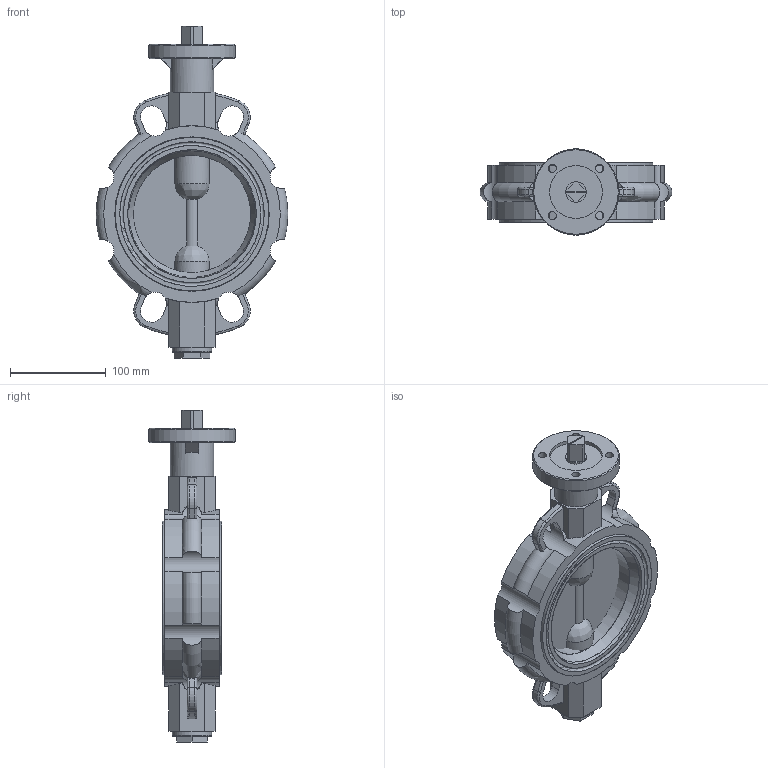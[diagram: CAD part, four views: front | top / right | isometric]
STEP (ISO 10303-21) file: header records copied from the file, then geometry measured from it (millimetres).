
FILE_DESCRIPTION( ( 'STEP AP214' ), '1' );
FILE_NAME( ' ', ' ', ( ' ' ), ( ' ' ), 'PSStep 13.0', 'VISI 18.0', ' ' );
FILE_SCHEMA( ( 'AUTOMOTIVE_DESIGN { 1 0 10303 214 1 1 1 1 }' ) );
Length unit declared in the file: millimetre
Products named in the file (29): 1; 2; 3; 4; 5; 6; 7; 8; 9; 10; 11; 12; 13; 14; 15; 16; 17; 18; 19; 20; 21; 22; 23; 24; 25; 26; 27; 28; 29
Bounding box: 200 x 90 x 346 mm (x, y, z)
Volume: 899634.3 mm3; surface area: 226678.7 mm2
Topology: 2 solids, 29 shells, 220 faces, 651 edges, 443 vertices
Faces by surface type: plane 87, cylinder 81, torus 34, bspline 12, cone 6
Full cylindrical faces by diameter (mm): 8.5 x4, 21.3 x1, 22 x2, 28.4 x2, 41.2 x1, 45 x1, 55 x1, 90 x1, 122.3 x1, 160 x2, 161 x1, 162 x2
Entity records: 15126 total; most frequent: CARTESIAN_POINT 7488, ORIENTED_EDGE 1144, DIRECTION 1132, EDGE_CURVE 607, AXIS2_PLACEMENT_3D 456, VERTEX_POINT 429, EDGE_LOOP 277, STYLED_ITEM 220
